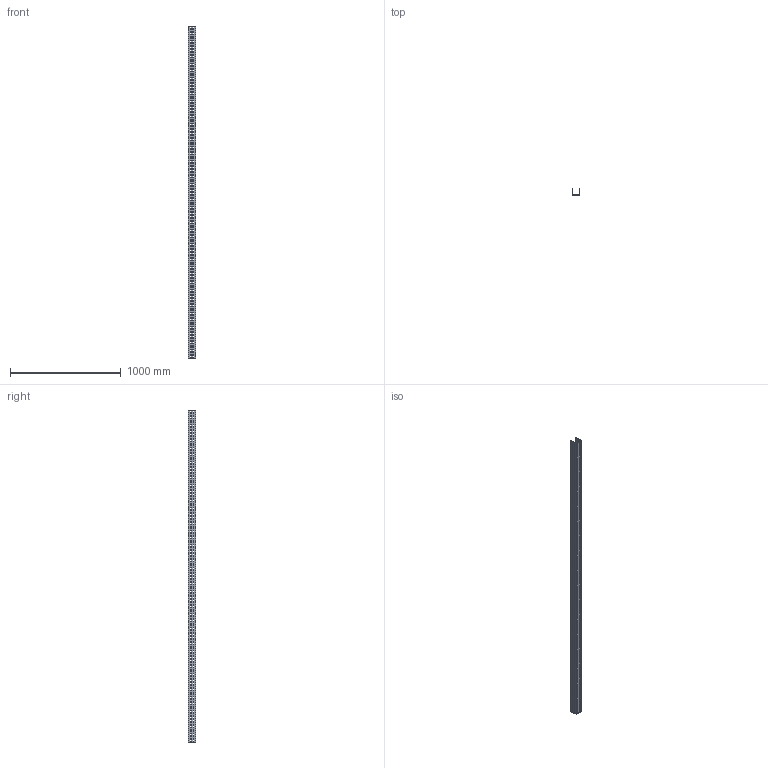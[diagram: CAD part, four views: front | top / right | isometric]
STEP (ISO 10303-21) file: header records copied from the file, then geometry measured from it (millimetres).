
FILE_DESCRIPTION (( 'STEP AP214' ), '1' );
FILE_NAME ('01B3H065.step', '2025-02-21T10:13:54', ( '' ), ( '' ), 'SwSTEP 2.0', 'SolidWorks 2023', '' );
FILE_SCHEMA (( 'AUTOMOTIVE_DESIGN' ));
Length unit declared in the file: millimetre
Products named in the file (1): 01B3H065
Bounding box: 65.5 x 65.5 x 3000 mm (x, y, z)
Volume: 1725150 mm3; surface area: 1104894.5 mm2
Topology: 1 solids, 1 shells, 1738 faces, 5208 edges, 3472 vertices
Faces by surface type: plane 1738
Entity records: 59063 total; most frequent: CARTESIAN_POINT 10419, ORIENTED_EDGE 10416, DIRECTION 8686, VECTOR 5208, LINE 5208, EDGE_CURVE 5208, VERTEX_POINT 3472, EDGE_LOOP 2602
